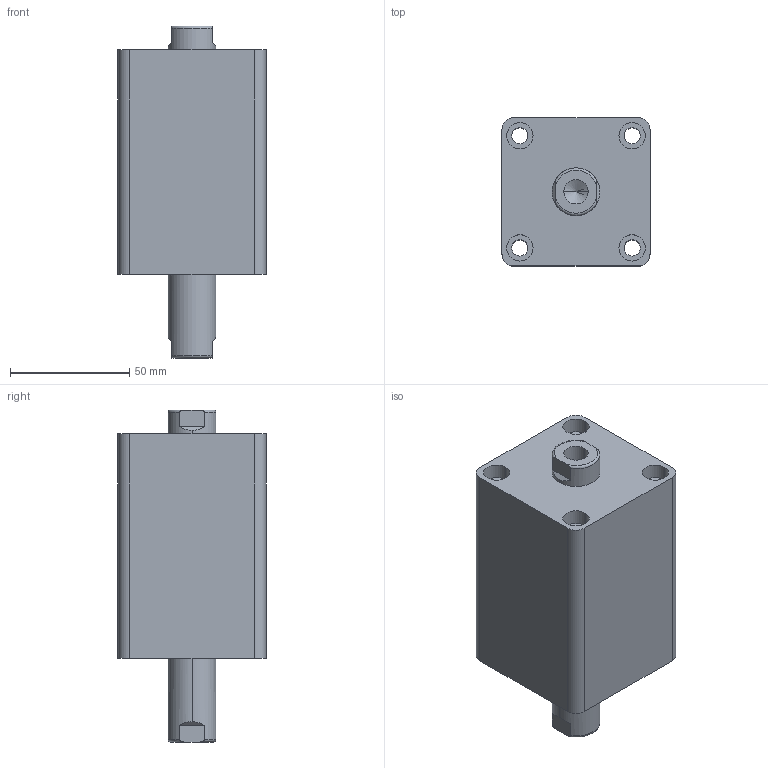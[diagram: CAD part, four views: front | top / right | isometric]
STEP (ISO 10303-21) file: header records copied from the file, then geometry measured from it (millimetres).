
FILE_DESCRIPTION (( 'STEP AP203' ), '1' );
FILE_NAME ('HTB-SW32-25N.STEP', '2019-10-07T08:51:30', ( '微软用户' ), ( '微软中国' ), 'SwSTEP 2.0', 'SolidWorks 2012', '' );
FILE_SCHEMA (( 'CONFIG_CONTROL_DESIGN' ));
Length unit declared in the file: millimetre
Products named in the file (3): HTB-SW32-25N; HTB-SW32-25N活塞杆; HTB-SW32-25掛极
Assembly tree (2 placements, depth 2):
  HTB-SW32-25N
    HTB-SW32-25掛极
    HTB-SW32-25N活塞杆
Bounding box: 62 x 62 x 139 mm (x, y, z)
Volume: 339339.3 mm3; surface area: 59032.5 mm2
Topology: 2 solids, 2 shells, 100 faces, 228 edges, 146 vertices
Faces by surface type: cylinder 48, plane 32, torus 12, cone 8
Entity records: 3237 total; most frequent: CARTESIAN_POINT 595, DIRECTION 542, ORIENTED_EDGE 448, AXIS2_PLACEMENT_3D 229, EDGE_CURVE 224, VERTEX_POINT 146, EDGE_LOOP 128, CIRCLE 124
